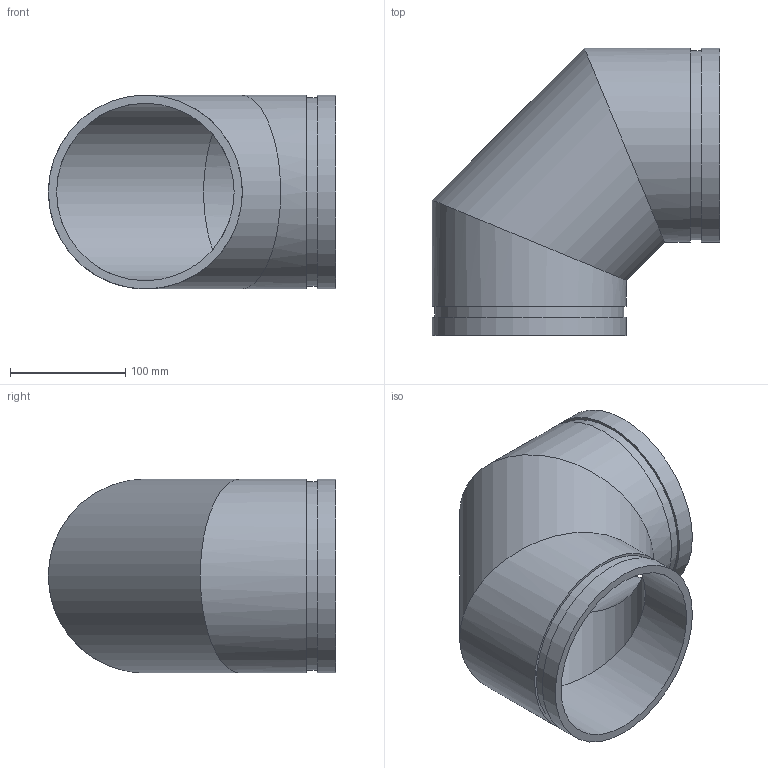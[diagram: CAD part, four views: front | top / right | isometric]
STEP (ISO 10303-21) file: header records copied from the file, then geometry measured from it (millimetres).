
FILE_DESCRIPTION(/* description */ ('VIC 90 DEG ELBOW FABRICATED No 10 SWS (OGS)','CAx-IF Rec.Pracs.---Representation and Presentation of Product Manufacturing Information (PMI)---4.0---2014-10-13'),/* implementation_level */ '2;1');
FILE_NAME(/* name */ 'C:\Users\kkamble\AppData\Roaming\Autodesk\ApplicationPlugins\Back Up\Victaulic_IPS_Elbow 90 Deg_No 10 SWS (OGS)\Victaulic_IPS_Elbow 90 Deg_No 10 SWS (OGS)_6 (150).stp',/* time_stamp */ '2020-09-16T22:17:52+06:00',/* author */ ('cgray'),/* organization */ ('Victaulic'),/* preprocessor_version */ 'ST-DEVELOPER v17.2',/* originating_system */ 'Autodesk Inventor 2019',/* authorisation */ '');
FILE_SCHEMA (('AP242_MANAGED_MODEL_BASED_3D_ENGINEERING_MIM_LF { 1 0 10303 442 1 1 4 }'));
Length unit declared in the file: inch
Products named in the file (1): 10 SWS-06.0
Bounding box: 249.24 x 249.24 x 168.28 mm (x, y, z)
Volume: 993416.3 mm3; surface area: 296849.5 mm2
Topology: 1 solids, 1 shells, 16 faces, 38 edges, 28 vertices
Faces by surface type: cylinder 10, plane 6
Full cylindrical faces by diameter (mm): 154.051 x3, 163.957 x2, 168.275 x5
Entity records: 646 total; most frequent: DIRECTION 126, CARTESIAN_POINT 100, ORIENTED_EDGE 76, AXIS2_PLACEMENT_3D 58, EDGE_CURVE 38, VERTEX_POINT 28, EDGE_LOOP 22, STYLED_ITEM 18
